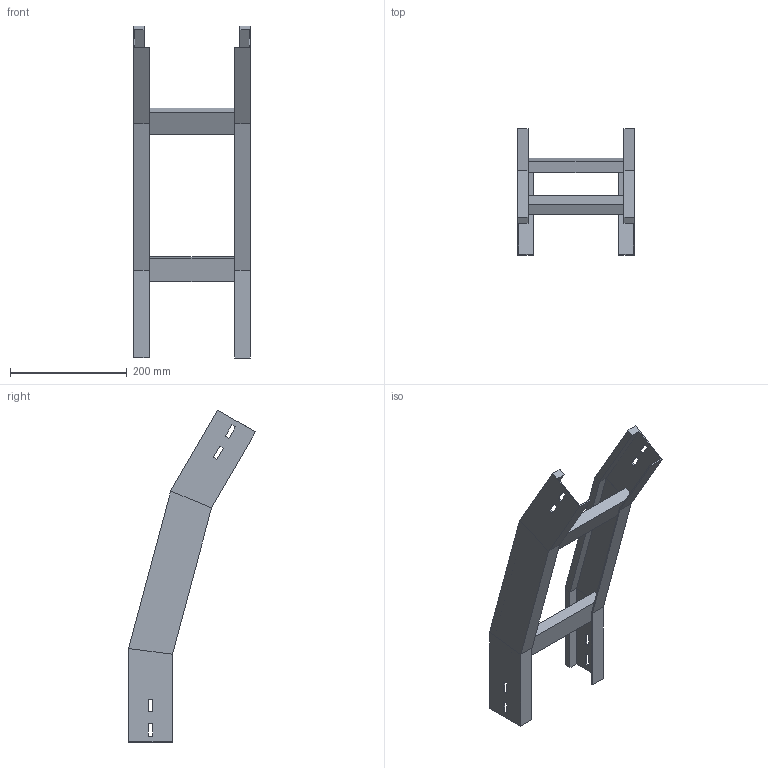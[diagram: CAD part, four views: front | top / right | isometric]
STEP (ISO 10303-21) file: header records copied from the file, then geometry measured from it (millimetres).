
FILE_DESCRIPTION (( 'STEP AP214' ), '1' );
FILE_NAME ('35B5C200.step', '2025-02-21T14:49:10', ( '' ), ( '' ), 'SwSTEP 2.0', 'SolidWorks 2023', '' );
FILE_SCHEMA (( 'AUTOMOTIVE_DESIGN' ));
Length unit declared in the file: millimetre
Products named in the file (3): TRAVERSINO_200; LONGH.DISCESA_30°_H75_R500; 35B5C200
Assembly tree (5 placements, depth 2):
  35B5C200
    LONGH.DISCESA_30°_H75_R500  x2
    TRAVERSINO_200  x3
Bounding box: 200 x 217.03 x 567.58 mm (x, y, z)
Volume: 932002.1 mm3; surface area: 348348.5 mm2
Topology: 5 solids, 5 shells, 102 faces, 244 edges, 152 vertices
Faces by surface type: plane 102
Entity records: 1480 total; most frequent: CARTESIAN_POINT 244, ORIENTED_EDGE 232, DIRECTION 228, EDGE_CURVE 116, VECTOR 116, LINE 116, VERTEX_POINT 72, EDGE_LOOP 56
